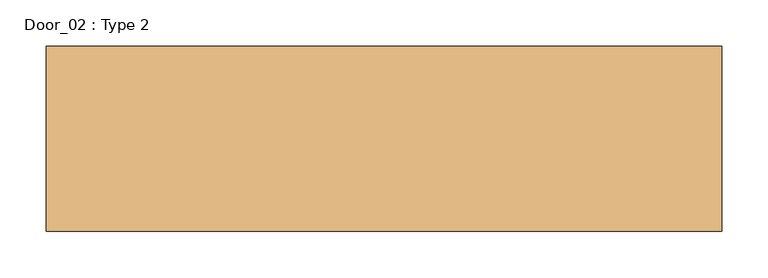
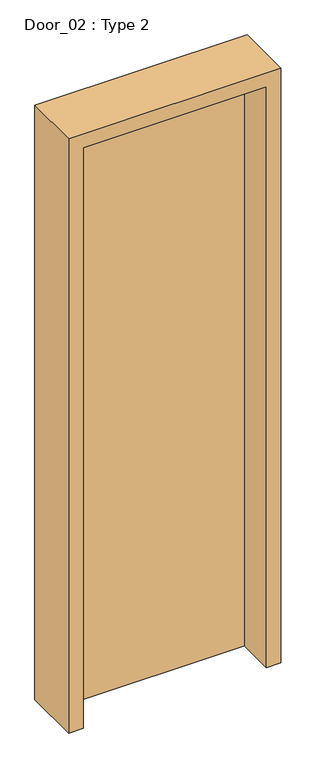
"""IFC4 building model written with IfcOpenShell, lengths in millimetres: door geometry, Door_02 : Type 2."""

from ifc_helpers import new_model, si_unit, frame, origin, origin_with_axes, place, context, project, spatial, polyline, outline, extrude, source, transform, mapped, element, save


def door_02_type_2_bd7ec7c0(model_context):
    return source(origin(), model_context, "Body", "SweptSolid", [
        extrude(outline(polyline([(315.0, -120.0), (-315.0, -120.0), (-315.0, -70.0), (315.0, -70.0), (315.0, -120.0)])), origin_with_axes(), (0.0, 0.0, 1.0), 2110.0),
        extrude(outline(polyline([(2160.0, -365.0), (0.0, -365.0), (0.0, -315.0), (2110.0, -315.0), (2110.0, 315.0), (0.0, 315.0), (0.0, 365.0), (2160.0, 365.0), (2160.0, -365.0)])), frame((0.0, -250.0, 0.0), z_axis=(0.0, 1.0, 0.0), x_axis=(0.0, 0.0, 1.0)), (0.0, 0.0, 1.0), 200.0),
    ])


if __name__ == "__main__":
    model = new_model("IFC4")
    model_context = context("Model", 3, world=origin())
    ifc_project = project(units=[si_unit("LENGTHUNIT", "METRE", prefix="MILLI")], contexts=[model_context])
    site = spatial("IfcSite", under=ifc_project)
    building = spatial("IfcBuilding", under=site)
    placement = place(None, origin())
    door_02_type_2_shape = door_02_type_2_bd7ec7c0(model_context)
    element("IfcDoor", 1, ObjectType="Door_02 : Type 2", at=placement, inside=building, context=model_context, shape_type="MappedRepresentation", body=[
        mapped(door_02_type_2_shape, transform((0.0, 0.0, 0.0), x_axis=(1.0, 0.0, 0.0), y_axis=(0.0, 1.0, 0.0), z_axis=(0.0, 0.0, 1.0))),
    ])
    save(model, "model.ifc")
